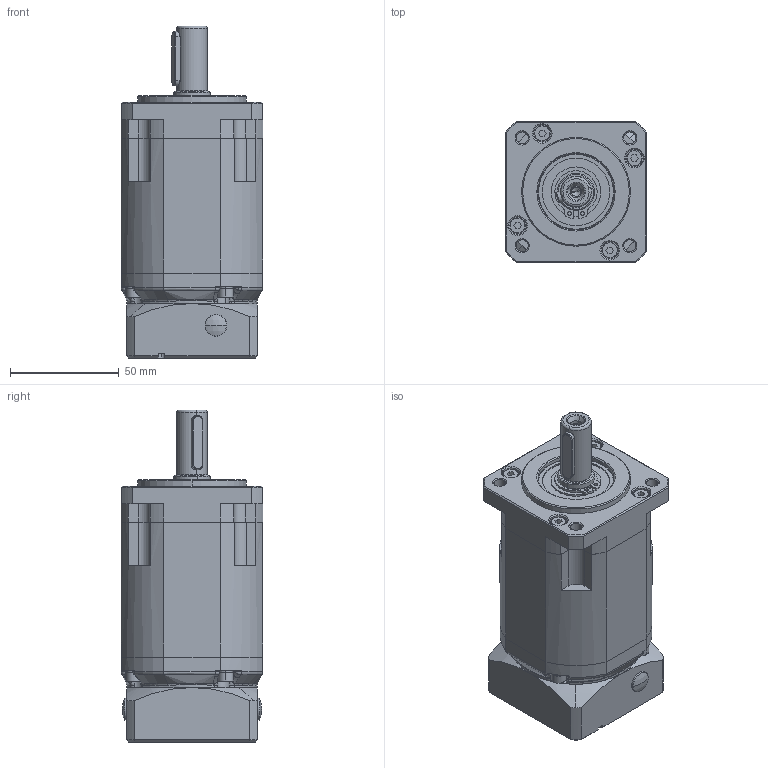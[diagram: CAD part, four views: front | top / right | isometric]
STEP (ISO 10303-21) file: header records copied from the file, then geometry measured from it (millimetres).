
FILE_DESCRIPTION (( 'STEP AP203' ), '1' );
FILE_NAME ('PS70L3-i-P2-S2-14-30-50-70-M4.step', '2020-03-30T09:39:19', ( '个人用户' ), ( '微软中国' ), 'SwSTEP 2.0', 'SolidWorks 2018', '' );
FILE_SCHEMA (( 'CONFIG_CONTROL_DESIGN' ));
Length unit declared in the file: millimetre
Products named in the file (1): PS70L3-i-P2-S2-14-30-50-70-M4
Bounding box: 65 x 65 x 152.5 mm (x, y, z)
Volume: 286226.9 mm3; surface area: 106115.1 mm2
Topology: 39 solids, 39 shells, 1447 faces, 3578 edges, 2255 vertices
Faces by surface type: cylinder 471, plane 406, sphere 190, cone 172, torus 170, bspline 38
Entity records: 49796 total; most frequent: CARTESIAN_POINT 15182, DIRECTION 7555, ORIENTED_EDGE 7056, EDGE_CURVE 3528, AXIS2_PLACEMENT_3D 3185, VERTEX_POINT 2251, CIRCLE 1775, EDGE_LOOP 1655
